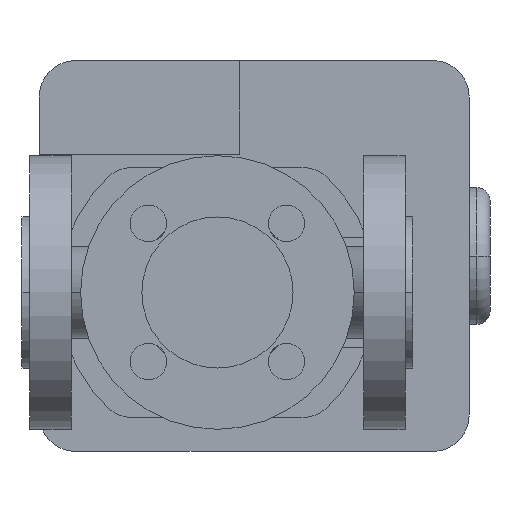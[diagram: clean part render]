
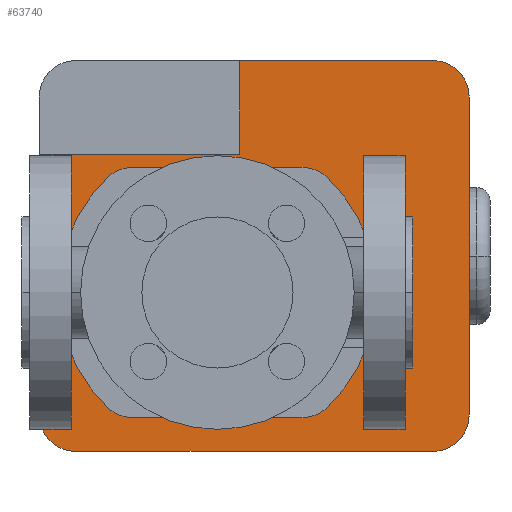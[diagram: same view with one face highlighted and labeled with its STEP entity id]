
A CAD part, front view. The second image highlights one B-rep face of the part: STEP entity #63740.
In plain terms, the highlighted planar face has unit normal (0, -1, 0).
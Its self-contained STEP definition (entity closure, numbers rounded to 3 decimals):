
#49640=CARTESIAN_POINT('',(134.96,498.,11.216));
#49650=VERTEX_POINT('',#49640);
#49680=CARTESIAN_POINT('',(125.,498.,0.));
#49690=DIRECTION('',(0.,1.,0.));
#49700=DIRECTION('',(0.,0.,1.));
#49710=AXIS2_PLACEMENT_3D('',#49680,#49690,#49700);
#49720=CIRCLE('',#49710,15.);
#49730=CARTESIAN_POINT('',(134.96,498.,-11.216));
#49740=VERTEX_POINT('',#49730);
#49750=EDGE_CURVE('',#49650,#49740,#49720,.T.);
#52470=CARTESIAN_POINT('',(117.116,498.,44.128));
#52480=VERTEX_POINT('',#52470);
#52510=CARTESIAN_POINT('',(75.,498.,0.));
#52520=DIRECTION('',(0.,1.,0.));
#52530=DIRECTION('',(0.69,0.,0.723));
#52540=AXIS2_PLACEMENT_3D('',#52510,#52520,#52530);
#52550=CIRCLE('',#52540,61.);
#52560=EDGE_CURVE('',#52480,#49650,#52550,.T.);
#52950=CARTESIAN_POINT('',(15.04,498.,-11.216));
#52960=VERTEX_POINT('',#52950);
#52990=CARTESIAN_POINT('',(25.,498.,0.));
#53000=DIRECTION('',(0.,1.,0.));
#53010=DIRECTION('',(0.,0.,-1.));
#53020=AXIS2_PLACEMENT_3D('',#52990,#53000,#53010);
#53030=CIRCLE('',#53020,15.);
#53040=CARTESIAN_POINT('',(15.04,498.,11.216));
#53050=VERTEX_POINT('',#53040);
#53060=EDGE_CURVE('',#52960,#53050,#53030,.T.);
#54050=CARTESIAN_POINT('',(32.884,498.,-44.128));
#54060=VERTEX_POINT('',#54050);
#54090=CARTESIAN_POINT('',(75.,498.,0.));
#54100=DIRECTION('',(0.,1.,0.));
#54110=DIRECTION('',(-0.69,0.,-0.723));
#54120=AXIS2_PLACEMENT_3D('',#54090,#54100,#54110);
#54130=CIRCLE('',#54120,61.);
#54140=EDGE_CURVE('',#54060,#52960,#54130,.T.);
#59740=CARTESIAN_POINT('',(157.6,498.,-61.));
#59750=VERTEX_POINT('',#59740);
#59780=CARTESIAN_POINT('',(157.6,498.,-47.));
#59790=DIRECTION('',(0.,1.,0.));
#59800=DIRECTION('',(1.,0.,0.));
#59810=AXIS2_PLACEMENT_3D('',#59780,#59790,#59800);
#59820=CIRCLE('',#59810,14.);
#59830=CARTESIAN_POINT('',(171.6,498.,-47.));
#59840=VERTEX_POINT('',#59830);
#59850=EDGE_CURVE('',#59840,#59750,#59820,.T.);
#60170=CARTESIAN_POINT('',(171.6,498.,75.));
#60180=VERTEX_POINT('',#60170);
#60210=CARTESIAN_POINT('',(157.6,498.,75.));
#60220=DIRECTION('',(0.,1.,0.));
#60230=DIRECTION('',(0.,0.,1.));
#60240=AXIS2_PLACEMENT_3D('',#60210,#60220,#60230);
#60250=CIRCLE('',#60240,14.);
#60260=CARTESIAN_POINT('',(157.6,498.,89.));
#60270=VERTEX_POINT('',#60260);
#60280=EDGE_CURVE('',#60270,#60180,#60250,.T.);
#60900=CARTESIAN_POINT('',(20.6,498.,-61.));
#60910=VERTEX_POINT('',#60900);
#60940=CARTESIAN_POINT('',(157.6,498.,-61.));
#60950=DIRECTION('',(-1.,0.,0.));
#60960=VECTOR('',#60950,1.);
#60970=LINE('',#60940,#60960);
#60980=EDGE_CURVE('',#59750,#60910,#60970,.T.);
#61300=CARTESIAN_POINT('',(32.884,498.,44.128));
#61310=VERTEX_POINT('',#61300);
#61340=CARTESIAN_POINT('',(42.55,498.,34.));
#61350=DIRECTION('',(0.,1.,0.));
#61360=DIRECTION('',(-0.69,0.,0.723));
#61370=AXIS2_PLACEMENT_3D('',#61340,#61350,#61360);
#61380=CIRCLE('',#61370,14.);
#61390=CARTESIAN_POINT('',(42.55,498.,48.));
#61400=VERTEX_POINT('',#61390);
#61410=EDGE_CURVE('',#61310,#61400,#61380,.T.);
#61590=CARTESIAN_POINT('',(58.775,498.,48.));
#61600=DIRECTION('',(1.,0.,0.));
#61610=VECTOR('',#61600,1.);
#61620=LINE('',#61590,#61610);
#61630=CARTESIAN_POINT('',(107.45,498.,48.));
#61640=VERTEX_POINT('',#61630);
#61650=EDGE_CURVE('',#61400,#61640,#61620,.T.);
#61830=CARTESIAN_POINT('',(107.45,498.,34.));
#61840=DIRECTION('',(0.,1.,0.));
#61850=DIRECTION('',(0.,0.,1.));
#61860=AXIS2_PLACEMENT_3D('',#61830,#61840,#61850);
#61870=CIRCLE('',#61860,14.);
#61880=EDGE_CURVE('',#61640,#52480,#61870,.T.);
#62000=CARTESIAN_POINT('',(75.,498.,0.));
#62010=DIRECTION('',(0.,1.,0.));
#62020=DIRECTION('',(0.69,0.,0.723));
#62030=AXIS2_PLACEMENT_3D('',#62000,#62010,#62020);
#62040=CIRCLE('',#62030,61.);
#62050=CARTESIAN_POINT('',(117.116,498.,-44.128));
#62060=VERTEX_POINT('',#62050);
#62070=EDGE_CURVE('',#49740,#62060,#62040,.T.);
#62260=CARTESIAN_POINT('',(107.45,498.,-34.));
#62270=DIRECTION('',(0.,1.,0.));
#62280=DIRECTION('',(0.69,0.,-0.723));
#62290=AXIS2_PLACEMENT_3D('',#62260,#62270,#62280);
#62300=CIRCLE('',#62290,14.);
#62310=CARTESIAN_POINT('',(107.45,498.,-48.));
#62320=VERTEX_POINT('',#62310);
#62330=EDGE_CURVE('',#62060,#62320,#62300,.T.);
#62510=CARTESIAN_POINT('',(91.225,498.,-48.));
#62520=DIRECTION('',(-1.,0.,0.));
#62530=VECTOR('',#62520,1.);
#62540=LINE('',#62510,#62530);
#62550=CARTESIAN_POINT('',(42.55,498.,-48.));
#62560=VERTEX_POINT('',#62550);
#62570=EDGE_CURVE('',#62320,#62560,#62540,.T.);
#62750=CARTESIAN_POINT('',(42.55,498.,-34.));
#62760=DIRECTION('',(0.,1.,0.));
#62770=DIRECTION('',(0.,0.,-1.));
#62780=AXIS2_PLACEMENT_3D('',#62750,#62760,#62770);
#62790=CIRCLE('',#62780,14.);
#62800=EDGE_CURVE('',#62560,#54060,#62790,.T.);
#62920=CARTESIAN_POINT('',(75.,498.,0.));
#62930=DIRECTION('',(0.,1.,0.));
#62940=DIRECTION('',(-0.69,0.,-0.723));
#62950=AXIS2_PLACEMENT_3D('',#62920,#62930,#62940);
#62960=CIRCLE('',#62950,61.);
#62970=EDGE_CURVE('',#53050,#61310,#62960,.T.);
#63050=CARTESIAN_POINT('',(75.,498.,0.));
#63060=DIRECTION('',(0.,1.,0.));
#63070=DIRECTION('',(0.,0.,1.));
#63080=AXIS2_PLACEMENT_3D('',#63050,#63060,#63070);
#63090=PLANE('',#63080);
#63100=ORIENTED_EDGE('',*,*,#52560,.T.);
#63110=ORIENTED_EDGE('',*,*,#61880,.T.);
#63120=ORIENTED_EDGE('',*,*,#61650,.T.);
#63130=ORIENTED_EDGE('',*,*,#61410,.T.);
#63140=ORIENTED_EDGE('',*,*,#62970,.T.);
#63150=ORIENTED_EDGE('',*,*,#53060,.T.);
#63160=ORIENTED_EDGE('',*,*,#54140,.T.);
#63170=ORIENTED_EDGE('',*,*,#62800,.T.);
#63180=ORIENTED_EDGE('',*,*,#62570,.T.);
#63190=ORIENTED_EDGE('',*,*,#62330,.T.);
#63200=ORIENTED_EDGE('',*,*,#62070,.T.);
#63210=ORIENTED_EDGE('',*,*,#49750,.T.);
#63220=EDGE_LOOP('',(#63210,#63200,#63190,#63180,#63170,#63160,#63150,
#63140,#63130,#63120,#63110,#63100));
#63230=FACE_BOUND('',#63220,.T.);
#63240=CARTESIAN_POINT('',(83.6,498.,26.5));
#63250=DIRECTION('',(0.,0.,-1.));
#63260=VECTOR('',#63250,1.);
#63270=LINE('',#63240,#63260);
#63280=CARTESIAN_POINT('',(83.6,498.,89.));
#63290=VERTEX_POINT('',#63280);
#63300=CARTESIAN_POINT('',(83.6,498.,53.));
#63310=VERTEX_POINT('',#63300);
#63320=EDGE_CURVE('',#63290,#63310,#63270,.T.);
#63330=ORIENTED_EDGE('',*,*,#63320,.T.);
#63340=CARTESIAN_POINT('',(20.6,498.,89.));
#63350=DIRECTION('',(1.,0.,0.));
#63360=VECTOR('',#63350,1.);
#63370=LINE('',#63340,#63360);
#63380=EDGE_CURVE('',#63290,#60270,#63370,.T.);
#63390=ORIENTED_EDGE('',*,*,#63380,.F.);
#63400=ORIENTED_EDGE('',*,*,#60280,.F.);
#63410=CARTESIAN_POINT('',(171.6,498.,75.));
#63420=DIRECTION('',(0.,0.,-1.));
#63430=VECTOR('',#63420,1.);
#63440=LINE('',#63410,#63430);
#63450=EDGE_CURVE('',#60180,#59840,#63440,.T.);
#63460=ORIENTED_EDGE('',*,*,#63450,.F.);
#63470=ORIENTED_EDGE('',*,*,#59850,.F.);
#63480=ORIENTED_EDGE('',*,*,#60980,.F.);
#63490=CARTESIAN_POINT('',(20.6,498.,-47.));
#63500=DIRECTION('',(0.,1.,0.));
#63510=DIRECTION('',(0.,0.,-1.));
#63520=AXIS2_PLACEMENT_3D('',#63490,#63500,#63510);
#63530=CIRCLE('',#63520,14.);
#63540=CARTESIAN_POINT('',(6.6,498.,-47.));
#63550=VERTEX_POINT('',#63540);
#63560=EDGE_CURVE('',#60910,#63550,#63530,.T.);
#63570=ORIENTED_EDGE('',*,*,#63560,.F.);
#63580=CARTESIAN_POINT('',(6.6,498.,-47.));
#63590=DIRECTION('',(0.,0.,1.));
#63600=VECTOR('',#63590,1.);
#63610=LINE('',#63580,#63600);
#63620=CARTESIAN_POINT('',(6.6,498.,53.));
#63630=VERTEX_POINT('',#63620);
#63640=EDGE_CURVE('',#63550,#63630,#63610,.T.);
#63650=ORIENTED_EDGE('',*,*,#63640,.F.);
#63660=CARTESIAN_POINT('',(40.3,498.,53.));
#63670=DIRECTION('',(-1.,0.,0.));
#63680=VECTOR('',#63670,1.);
#63690=LINE('',#63660,#63680);
#63700=EDGE_CURVE('',#63310,#63630,#63690,.T.);
#63710=ORIENTED_EDGE('',*,*,#63700,.T.);
#63720=EDGE_LOOP('',(#63710,#63650,#63570,#63480,#63470,#63460,#63400,
#63390,#63330));
#63730=FACE_OUTER_BOUND('',#63720,.T.);
#63740=ADVANCED_FACE('',(#63230,#63730),#63090,.F.);
